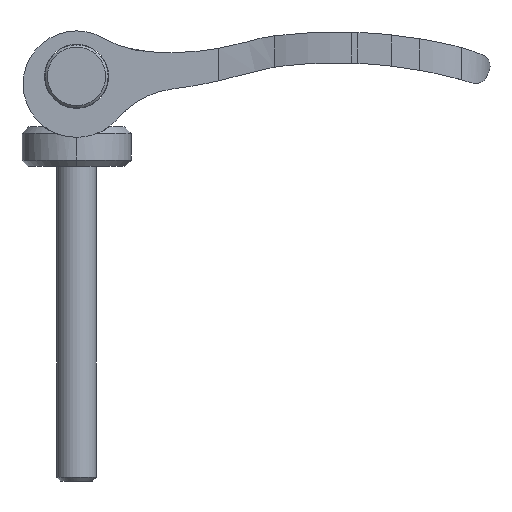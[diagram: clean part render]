
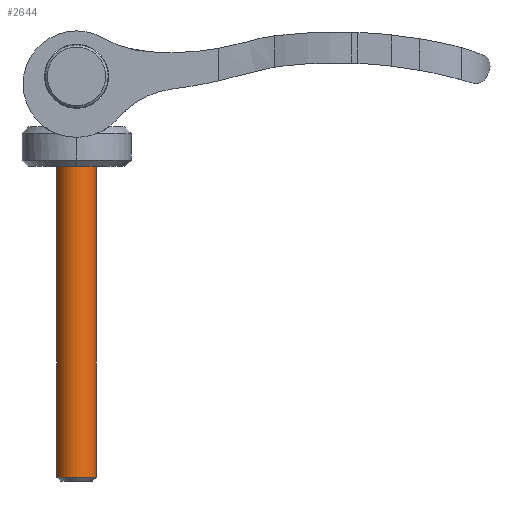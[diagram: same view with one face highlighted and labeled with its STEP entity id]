
A CAD part, front view. The second image highlights one B-rep face of the part: STEP entity #2644.
In plain terms, the highlighted cylindrical face has radius 2.5 mm (diameter 5 mm), a partial arc.
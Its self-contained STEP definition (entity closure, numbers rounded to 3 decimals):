
#28 = LINE ( 'NONE', #3382, #2975 ) ;
#58 = EDGE_CURVE ( 'NONE', #637, #1509, #1393, .T. ) ;
#76 = ORIENTED_EDGE ( 'NONE', *, *, #2069, .T. ) ;
#98 = DIRECTION ( 'NONE',  ( 0., 0., 1. ) ) ;
#137 = VECTOR ( 'NONE', #98, 1000. ) ;
#144 = DIRECTION ( 'NONE',  ( 1., 0., 0. ) ) ;
#293 = ORIENTED_EDGE ( 'NONE', *, *, #58, .T. ) ;
#309 = CARTESIAN_POINT ( 'NONE',  ( 0., 0., -6.7 ) ) ;
#541 = DIRECTION ( 'NONE',  ( 0., 0., 1. ) ) ;
#637 = VERTEX_POINT ( 'NONE', #2455 ) ;
#693 = CARTESIAN_POINT ( 'NONE',  ( -2.5, 0., 39.309 ) ) ;
#826 = CYLINDRICAL_SURFACE ( 'NONE', #2961, 2.5 ) ;
#900 = EDGE_CURVE ( 'NONE', #1171, #1336, #1801, .T. ) ;
#959 = LINE ( 'NONE', #2970, #137 ) ;
#1054 = CARTESIAN_POINT ( 'NONE',  ( 0., 0., -7.936 ) ) ;
#1171 = VERTEX_POINT ( 'NONE', #1442 ) ;
#1336 = VERTEX_POINT ( 'NONE', #693 ) ;
#1393 = CIRCLE ( 'NONE', #2813, 2.5 ) ;
#1442 = CARTESIAN_POINT ( 'NONE',  ( 2.5, 0., 39.309 ) ) ;
#1509 = VERTEX_POINT ( 'NONE', #2823 ) ;
#1801 = CIRCLE ( 'NONE', #2190, 2.5 ) ;
#2069 = EDGE_CURVE ( 'NONE', #1509, #1171, #28, .T. ) ;
#2106 = EDGE_LOOP ( 'NONE', ( #2924, #293, #76, #3152 ) ) ;
#2190 = AXIS2_PLACEMENT_3D ( 'NONE', #2898, #2626, #144 ) ;
#2455 = CARTESIAN_POINT ( 'NONE',  ( -2.5, 0., -6.7 ) ) ;
#2490 = DIRECTION ( 'NONE',  ( 0., 0., 1. ) ) ;
#2626 = DIRECTION ( 'NONE',  ( 0., 0., -1. ) ) ;
#2644 = ADVANCED_FACE ( 'NONE', ( #3291 ), #826, .T. ) ;
#2744 = DIRECTION ( 'NONE',  ( 1., 0., 0. ) ) ;
#2792 = DIRECTION ( 'NONE',  ( 0., 0., 1. ) ) ;
#2813 = AXIS2_PLACEMENT_3D ( 'NONE', #309, #2792, #3105 ) ;
#2823 = CARTESIAN_POINT ( 'NONE',  ( 2.5, 0., -6.7 ) ) ;
#2898 = CARTESIAN_POINT ( 'NONE',  ( 0., 0., 39.309 ) ) ;
#2924 = ORIENTED_EDGE ( 'NONE', *, *, #2929, .F. ) ;
#2929 = EDGE_CURVE ( 'NONE', #637, #1336, #959, .T. ) ;
#2961 = AXIS2_PLACEMENT_3D ( 'NONE', #1054, #2490, #2744 ) ;
#2970 = CARTESIAN_POINT ( 'NONE',  ( -2.5, 0., -7.936 ) ) ;
#2975 = VECTOR ( 'NONE', #541, 1000. ) ;
#3105 = DIRECTION ( 'NONE',  ( 1., 0., 0. ) ) ;
#3152 = ORIENTED_EDGE ( 'NONE', *, *, #900, .T. ) ;
#3291 = FACE_OUTER_BOUND ( 'NONE', #2106, .T. ) ;
#3382 = CARTESIAN_POINT ( 'NONE',  ( 2.5, 0., -7.936 ) ) ;
